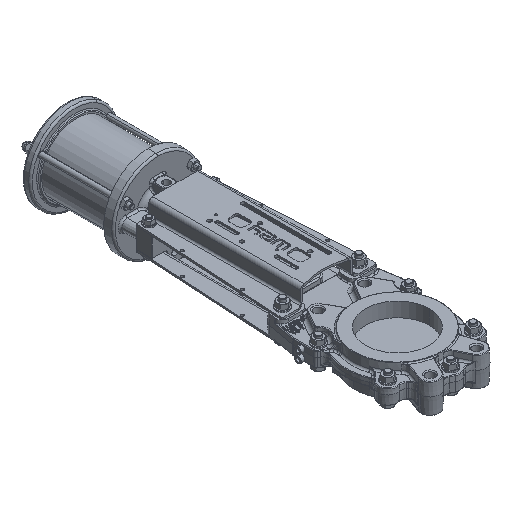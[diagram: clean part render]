
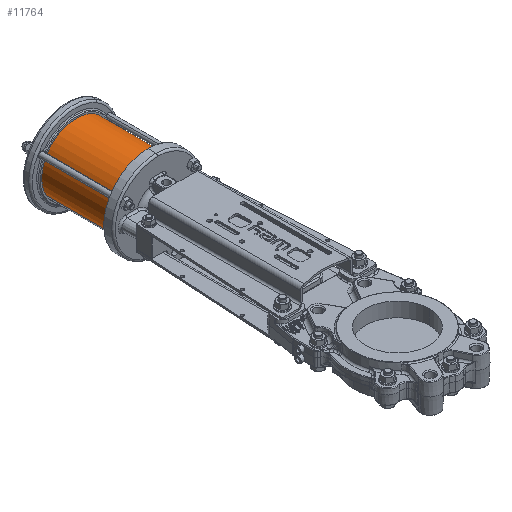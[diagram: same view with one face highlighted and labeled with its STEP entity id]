
A CAD part, isometric view. The second image highlights one B-rep face of the part: STEP entity #11764.
In plain terms, the highlighted cylindrical face has radius 54 mm (diameter 108 mm), a partial arc.
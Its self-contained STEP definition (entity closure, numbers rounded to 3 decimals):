
#1657 = DIRECTION ( 'NONE',  ( 0., -1., 0. ) ) ;
#5061 = VERTEX_POINT ( 'NONE', #139288 ) ;
#7834 = DIRECTION ( 'NONE',  ( 1., 0., 0. ) ) ;
#11764 = ADVANCED_FACE ( 'NONE', ( #89478 ), #104624, .T. ) ;
#13884 = LINE ( 'NONE', #35214, #42541 ) ;
#14256 = LINE ( 'NONE', #130652, #96842 ) ;
#25181 = EDGE_CURVE ( 'NONE', #138460, #5061, #37165, .T. ) ;
#26509 = CARTESIAN_POINT ( 'NONE',  ( 0., 389., -0.25 ) ) ;
#32175 = AXIS2_PLACEMENT_3D ( 'NONE', #136870, #72313, #7834 ) ;
#35214 = CARTESIAN_POINT ( 'NONE',  ( -46.074, 389., -28.413 ) ) ;
#37165 = CIRCLE ( 'NONE', #32175, 54. ) ;
#37389 = DIRECTION ( 'NONE',  ( -0.853, 0., -0.522 ) ) ;
#37706 = VERTEX_POINT ( 'NONE', #72503 ) ;
#40767 = DIRECTION ( 'NONE',  ( 0., -1., 0. ) ) ;
#42541 = VECTOR ( 'NONE', #121306, 1000. ) ;
#60235 = CARTESIAN_POINT ( 'NONE',  ( -46.074, 389., -28.413 ) ) ;
#66971 = CIRCLE ( 'NONE', #124942, 54. ) ;
#67334 = CARTESIAN_POINT ( 'NONE',  ( 46.074, 507., 27.913 ) ) ;
#68448 = EDGE_CURVE ( 'NONE', #37706, #86380, #66971, .T. ) ;
#69322 = EDGE_CURVE ( 'NONE', #5061, #86380, #13884, .T. ) ;
#71155 = AXIS2_PLACEMENT_3D ( 'NONE', #83609, #40767, #84076 ) ;
#72313 = DIRECTION ( 'NONE',  ( 0., -1., 0. ) ) ;
#72503 = CARTESIAN_POINT ( 'NONE',  ( 46.074, 389., 27.913 ) ) ;
#74698 = EDGE_CURVE ( 'NONE', #138460, #37706, #14256, .T. ) ;
#78452 = EDGE_LOOP ( 'NONE', ( #100367, #107294, #95656, #134501 ) ) ;
#83609 = CARTESIAN_POINT ( 'NONE',  ( 0., 389., -0.25 ) ) ;
#84076 = DIRECTION ( 'NONE',  ( -0.853, 0., -0.522 ) ) ;
#86380 = VERTEX_POINT ( 'NONE', #60235 ) ;
#89478 = FACE_OUTER_BOUND ( 'NONE', #78452, .T. ) ;
#95656 = ORIENTED_EDGE ( 'NONE', *, *, #69322, .T. ) ;
#96842 = VECTOR ( 'NONE', #1657, 1000. ) ;
#100367 = ORIENTED_EDGE ( 'NONE', *, *, #74698, .F. ) ;
#101889 = DIRECTION ( 'NONE',  ( 0., -1., 0. ) ) ;
#104624 = CYLINDRICAL_SURFACE ( 'NONE', #71155, 54. ) ;
#107294 = ORIENTED_EDGE ( 'NONE', *, *, #25181, .T. ) ;
#121306 = DIRECTION ( 'NONE',  ( 0., -1., 0. ) ) ;
#124942 = AXIS2_PLACEMENT_3D ( 'NONE', #26509, #101889, #37389 ) ;
#130652 = CARTESIAN_POINT ( 'NONE',  ( 46.074, 389., 27.913 ) ) ;
#134501 = ORIENTED_EDGE ( 'NONE', *, *, #68448, .F. ) ;
#136870 = CARTESIAN_POINT ( 'NONE',  ( 0., 507., -0.25 ) ) ;
#138460 = VERTEX_POINT ( 'NONE', #67334 ) ;
#139288 = CARTESIAN_POINT ( 'NONE',  ( -46.074, 507., -28.413 ) ) ;
